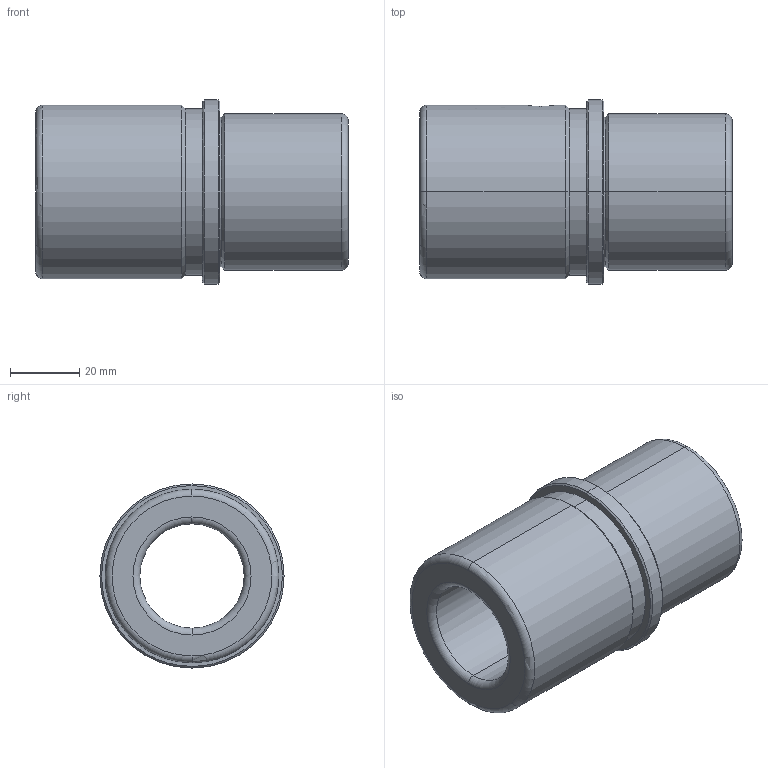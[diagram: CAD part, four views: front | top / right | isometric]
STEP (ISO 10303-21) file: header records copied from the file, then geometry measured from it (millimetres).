
FILE_DESCRIPTION(('CATIA V5 STEP Exchange'),'2;1');
FILE_NAME('C:\Users\Utente\Desktop\IO LAVORO\3D X SITO CF\X SITO\FAMO\FAMO-SF1-D30 x 90.stp','2021-01-06T17:06:16+00:00',('none'),('none'),'CATIA Version 5 Release 20 GA (IN-10)','CATIA V5 STEP AP203','none');
FILE_SCHEMA(('CONFIG_CONTROL_DESIGN'));
Length unit declared in the file: millimetre
Products named in the file (1): FAMO-SF1-D30 x 90
Bounding box: 90 x 53 x 53 mm (x, y, z)
Volume: 98249 mm3; surface area: 25292.1 mm2
Topology: 1 solids, 1 shells, 37 faces, 126 edges, 94 vertices
Faces by surface type: cylinder 14, cone 10, torus 8, plane 5
Entity records: 1647 total; most frequent: CARTESIAN_POINT 515, ORIENTED_EDGE 252, DIRECTION 180, EDGE_CURVE 126, AXIS2_PLACEMENT_3D 120, VERTEX_POINT 94, CIRCLE 82, EDGE_LOOP 44
